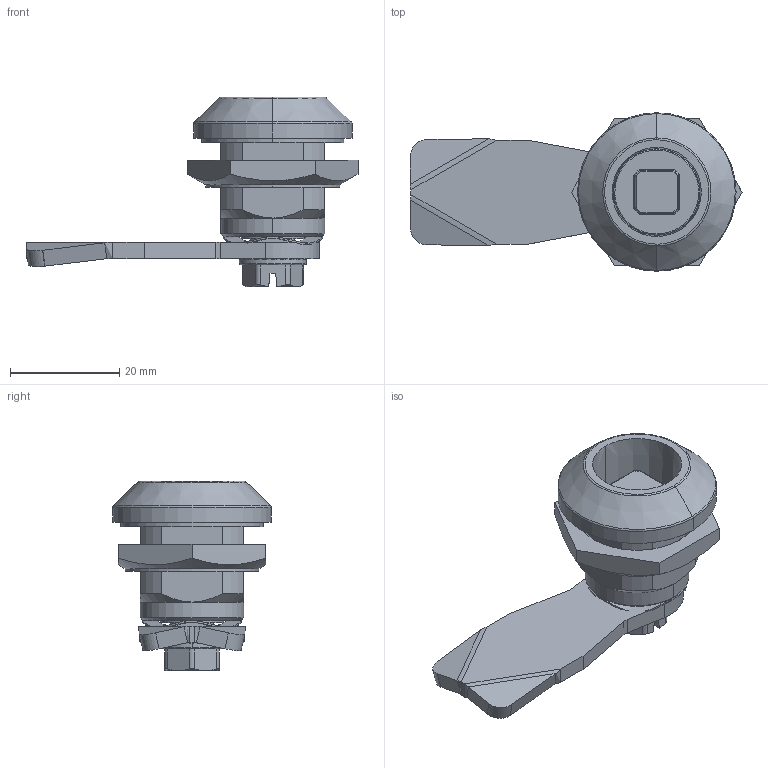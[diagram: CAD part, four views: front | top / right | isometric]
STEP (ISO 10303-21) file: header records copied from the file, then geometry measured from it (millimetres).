
FILE_DESCRIPTION (( 'STEP AP214' ), '1' );
FILE_NAME ('M22D.STEP', '2016-08-22T06:02:35', ( 'Krzysiek' ), ( '' ), 'SwSTEP 2.0', 'SolidWorks 2015', '' );
FILE_SCHEMA (( 'AUTOMOTIVE_DESIGN' ));
Length unit declared in the file: millimetre
Products named in the file (9): DIN 3771_9.1x1.6; 2.S.M22D.001_KW8; 2.K.M22D.002_90; M22D; 2.IP65.003_A; 2.NKR_M22 - A1; DIN 6921_M6x8; 1C.J-1XX.GH.L_#3, 1.00.18.45; Podk-adka falista (4x giàta)
Assembly tree (8 placements, depth 2):
  M22D
    2.K.M22D.002_90
    2.S.M22D.001_KW8
    DIN 3771_9.1x1.6
    Podk-adka falista (4x giàta)
    1C.J-1XX.GH.L_#3, 1.00.18.45
    DIN 6921_M6x8
    2.NKR_M22 - A1
    2.IP65.003_A
Bounding box: 60.75 x 29 x 34.66 mm (x, y, z)
Volume: 12524 mm3; surface area: 10291.5 mm2
Topology: 8 solids, 8 shells, 314 faces, 784 edges, 488 vertices
Faces by surface type: plane 147, bspline 59, cylinder 59, cone 49
Entity records: 11553 total; most frequent: CARTESIAN_POINT 4349, ORIENTED_EDGE 1564, DIRECTION 1285, EDGE_CURVE 782, VERTEX_POINT 488, AXIS2_PLACEMENT_3D 478, EDGE_LOOP 330, VECTOR 329
